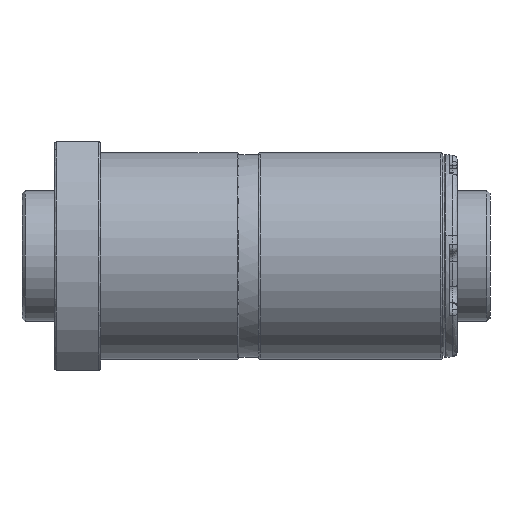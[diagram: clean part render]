
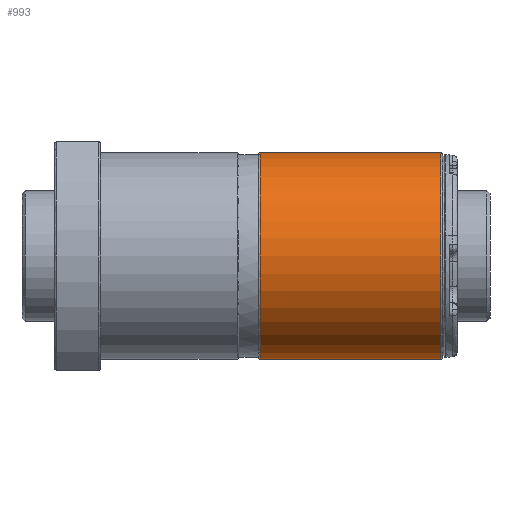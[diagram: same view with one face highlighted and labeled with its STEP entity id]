
A CAD part, front view. The second image highlights one B-rep face of the part: STEP entity #993.
In plain terms, the highlighted cylindrical face has radius 31.5 mm (diameter 63 mm), a partial arc.
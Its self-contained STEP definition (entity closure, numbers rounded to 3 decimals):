
#33 = DIRECTION ( 'NONE',  ( -1., 0., 0. ) ) ;
#84 = DIRECTION ( 'NONE',  ( 0., 0., 1. ) ) ;
#264 = CYLINDRICAL_SURFACE ( 'NONE', #874, 31.5 ) ;
#874 = AXIS2_PLACEMENT_3D ( 'NONE', #5914, #3582, #4633 ) ;
#993 = ADVANCED_FACE ( 'NONE', ( #2151 ), #264, .T. ) ;
#1016 = CARTESIAN_POINT ( 'NONE',  ( 62.75, 0., 31.5 ) ) ;
#1072 = EDGE_CURVE ( 'NONE', #2485, #12780, #4615, .T. ) ;
#1163 = LINE ( 'NONE', #3078, #13637 ) ;
#1166 = EDGE_CURVE ( 'NONE', #12780, #3751, #9916, .T. ) ;
#1186 = VECTOR ( 'NONE', #13481, 1000. ) ;
#1440 = ORIENTED_EDGE ( 'NONE', *, *, #1166, .T. ) ;
#2151 = FACE_OUTER_BOUND ( 'NONE', #10185, .T. ) ;
#2435 = EDGE_CURVE ( 'NONE', #2485, #2996, #1163, .T. ) ;
#2485 = VERTEX_POINT ( 'NONE', #5944 ) ;
#2996 = VERTEX_POINT ( 'NONE', #12947 ) ;
#3078 = CARTESIAN_POINT ( 'NONE',  ( 118.5, 0., -31.5 ) ) ;
#3582 = DIRECTION ( 'NONE',  ( -1., 0., 0. ) ) ;
#3732 = CARTESIAN_POINT ( 'NONE',  ( 118.5, 0., 31.5 ) ) ;
#3751 = VERTEX_POINT ( 'NONE', #1016 ) ;
#4171 = ORIENTED_EDGE ( 'NONE', *, *, #1072, .T. ) ;
#4201 = CARTESIAN_POINT ( 'NONE',  ( 62.75, 0., 0. ) ) ;
#4615 = CIRCLE ( 'NONE', #15474, 31.5 ) ;
#4633 = DIRECTION ( 'NONE',  ( 0., 0., 1. ) ) ;
#4705 = ORIENTED_EDGE ( 'NONE', *, *, #2435, .F. ) ;
#5273 = DIRECTION ( 'NONE',  ( 1., 0., 0. ) ) ;
#5914 = CARTESIAN_POINT ( 'NONE',  ( 118.5, 0., 0. ) ) ;
#5944 = CARTESIAN_POINT ( 'NONE',  ( 118., 0., -31.5 ) ) ;
#6164 = CARTESIAN_POINT ( 'NONE',  ( 118., 0., 0. ) ) ;
#7767 = DIRECTION ( 'NONE',  ( 0., 0., 1. ) ) ;
#8272 = DIRECTION ( 'NONE',  ( -1., 0., 0. ) ) ;
#9916 = LINE ( 'NONE', #3732, #1186 ) ;
#10185 = EDGE_LOOP ( 'NONE', ( #4705, #4171, #1440, #15099 ) ) ;
#10283 = EDGE_CURVE ( 'NONE', #3751, #2996, #11353, .T. ) ;
#11353 = CIRCLE ( 'NONE', #13352, 31.5 ) ;
#12780 = VERTEX_POINT ( 'NONE', #14551 ) ;
#12947 = CARTESIAN_POINT ( 'NONE',  ( 62.75, 0., -31.5 ) ) ;
#13352 = AXIS2_PLACEMENT_3D ( 'NONE', #4201, #5273, #7767 ) ;
#13481 = DIRECTION ( 'NONE',  ( -1., 0., 0. ) ) ;
#13637 = VECTOR ( 'NONE', #8272, 1000. ) ;
#14551 = CARTESIAN_POINT ( 'NONE',  ( 118., 0., 31.5 ) ) ;
#15099 = ORIENTED_EDGE ( 'NONE', *, *, #10283, .T. ) ;
#15474 = AXIS2_PLACEMENT_3D ( 'NONE', #6164, #33, #84 ) ;
